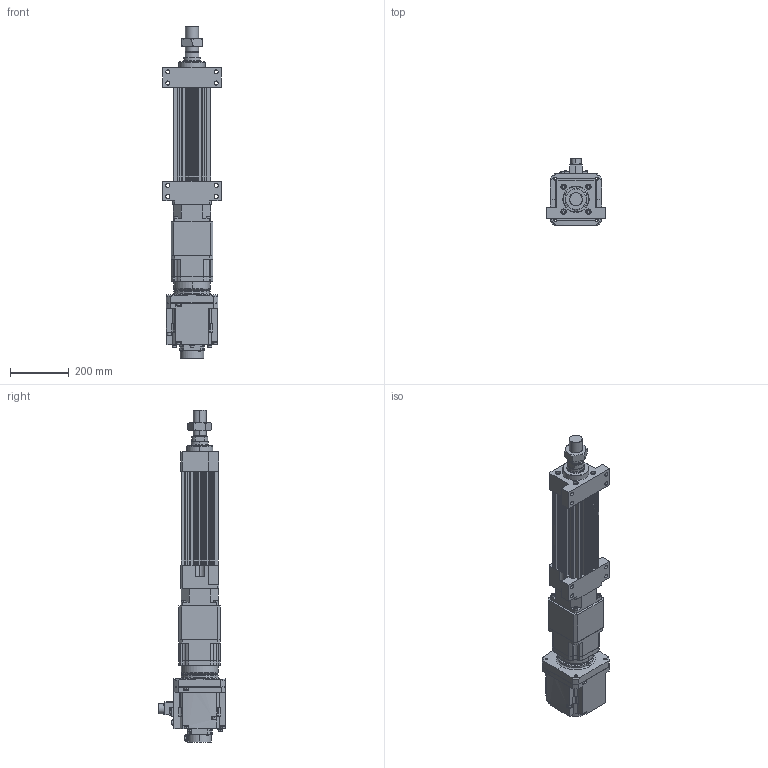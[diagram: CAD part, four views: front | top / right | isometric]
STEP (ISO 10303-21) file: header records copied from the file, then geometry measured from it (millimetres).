
FILE_DESCRIPTION (( 'STEP AP203' ), '1' );
FILE_NAME ('HES130NS(FS)(HS)-S100-W020G00-M-FFB.STEP', '2026-06-10T06:14:10', ( 'tms' ), ( '' ), 'SwSTEP 2.0', 'SolidWorks 2013', '' );
FILE_SCHEMA (( 'CONFIG_CONTROL_DESIGN' ));
Length unit declared in the file: millimetre
Products named in the file (9): HES130-M-ROD-100; HG-SR202B; HES130-FFB-100; AB1422; AB1423; HES130-S-G142; M45X1.5P; HES130NS(FS)(HS)-S100-W020G00-M-FFB; AB1421
Assembly tree (8 placements, depth 2):
  HES130NS(FS)(HS)-S100-W020G00-M-FFB
    HES130-FFB-100
    HES130-M-ROD-100
    M45X1.5P
    HES130-S-G142
    AB1421
    AB1422
    AB1423
    HG-SR202B
Bounding box: 200 x 228.85 x 1135 mm (x, y, z)
Volume: 11266456.9 mm3; surface area: 1273077.7 mm2
Topology: 5 solids, 19 shells, 1547 faces, 4010 edges, 2610 vertices
Faces by surface type: cylinder 694, plane 619, cone 152, bspline 76, torus 6
Entity records: 56386 total; most frequent: CARTESIAN_POINT 16969, DIRECTION 8246, ORIENTED_EDGE 7946, EDGE_CURVE 3995, AXIS2_PLACEMENT_3D 3104, VERTEX_POINT 2610, VECTOR 2038, LINE 2038
